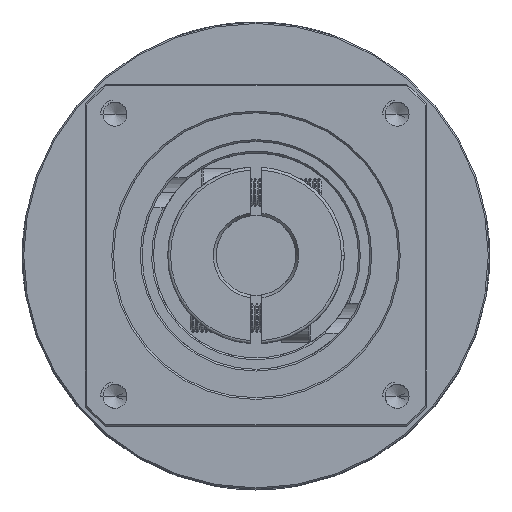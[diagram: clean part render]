
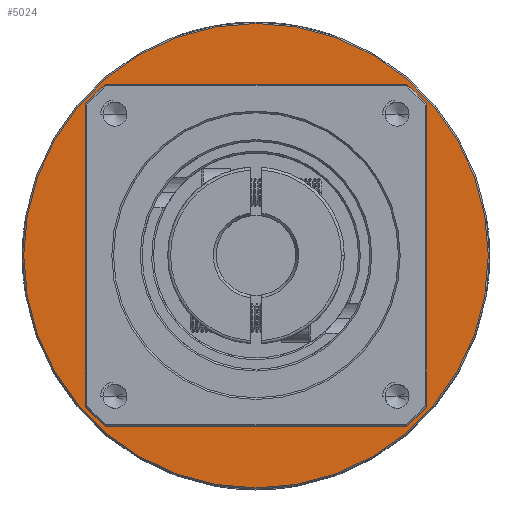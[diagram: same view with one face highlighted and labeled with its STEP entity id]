
A CAD part, top view. The second image highlights one B-rep face of the part: STEP entity #5024.
In plain terms, the highlighted planar face has unit normal (0, 0, 1).
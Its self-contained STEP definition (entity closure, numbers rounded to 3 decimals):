
#4942 = DIRECTION ( 'NONE',  ( -1., 0., 0. ) ) ;
#5024 = ADVANCED_FACE ( 'NONE', ( #65941, #68981 ), #79986, .T. ) ;
#15628 = CARTESIAN_POINT ( 'NONE',  ( 14.548, 42.995, 34. ) ) ;
#20846 = DIRECTION ( 'NONE',  ( 0., 0., -1. ) ) ;
#24353 = CARTESIAN_POINT ( 'NONE',  ( 44.548, 2.245, 34. ) ) ;
#26074 = CIRCLE ( 'NONE', #104562, 30. ) ;
#27159 = VERTEX_POINT ( 'NONE', #37283 ) ;
#32989 = CARTESIAN_POINT ( 'NONE',  ( 14.548, 2.245, 34. ) ) ;
#33250 = AXIS2_PLACEMENT_3D ( 'NONE', #32989, #100133, #42652 ) ;
#37283 = CARTESIAN_POINT ( 'NONE',  ( 14.548, -38.505, 34. ) ) ;
#41225 = DIRECTION ( 'NONE',  ( 0., 0., -1. ) ) ;
#41906 = DIRECTION ( 'NONE',  ( 0., 0., -1. ) ) ;
#42652 = DIRECTION ( 'NONE',  ( 1., 0., 0. ) ) ;
#50242 = CIRCLE ( 'NONE', #84079, 40.75 ) ;
#54718 = ORIENTED_EDGE ( 'NONE', *, *, #83768, .T. ) ;
#58453 = CIRCLE ( 'NONE', #124106, 40.75 ) ;
#62507 = DIRECTION ( 'NONE',  ( 0., 0., -1. ) ) ;
#64013 = AXIS2_PLACEMENT_3D ( 'NONE', #98765, #41225, #108394 ) ;
#65941 = FACE_OUTER_BOUND ( 'NONE', #93084, .T. ) ;
#68981 = FACE_BOUND ( 'NONE', #123009, .T. ) ;
#70725 = ORIENTED_EDGE ( 'NONE', *, *, #106551, .F. ) ;
#77815 = ORIENTED_EDGE ( 'NONE', *, *, #111256, .F. ) ;
#78330 = CARTESIAN_POINT ( 'NONE',  ( 14.548, 2.245, 34. ) ) ;
#79986 = PLANE ( 'NONE',  #33250 ) ;
#80867 = EDGE_CURVE ( 'NONE', #103272, #105622, #26074, .T. ) ;
#83768 = EDGE_CURVE ( 'NONE', #105622, #103272, #100620, .T. ) ;
#84079 = AXIS2_PLACEMENT_3D ( 'NONE', #99402, #41906, #109072 ) ;
#87992 = DIRECTION ( 'NONE',  ( 0., 1., 0. ) ) ;
#93084 = EDGE_LOOP ( 'NONE', ( #70725, #77815 ) ) ;
#98765 = CARTESIAN_POINT ( 'NONE',  ( 14.548, 2.245, 34. ) ) ;
#99402 = CARTESIAN_POINT ( 'NONE',  ( 14.548, 2.245, 34. ) ) ;
#100133 = DIRECTION ( 'NONE',  ( 0., 0., 1. ) ) ;
#100620 = CIRCLE ( 'NONE', #64013, 30. ) ;
#103272 = VERTEX_POINT ( 'NONE', #104061 ) ;
#104061 = CARTESIAN_POINT ( 'NONE',  ( -15.452, 2.245, 34. ) ) ;
#104562 = AXIS2_PLACEMENT_3D ( 'NONE', #119953, #62507, #4942 ) ;
#105622 = VERTEX_POINT ( 'NONE', #24353 ) ;
#106551 = EDGE_CURVE ( 'NONE', #115765, #27159, #50242, .T. ) ;
#108394 = DIRECTION ( 'NONE',  ( -1., 0., 0. ) ) ;
#109072 = DIRECTION ( 'NONE',  ( 0., 1., 0. ) ) ;
#111256 = EDGE_CURVE ( 'NONE', #27159, #115765, #58453, .T. ) ;
#115765 = VERTEX_POINT ( 'NONE', #15628 ) ;
#116869 = ORIENTED_EDGE ( 'NONE', *, *, #80867, .T. ) ;
#119953 = CARTESIAN_POINT ( 'NONE',  ( 14.548, 2.245, 34. ) ) ;
#123009 = EDGE_LOOP ( 'NONE', ( #116869, #54718 ) ) ;
#124106 = AXIS2_PLACEMENT_3D ( 'NONE', #78330, #20846, #87992 ) ;
